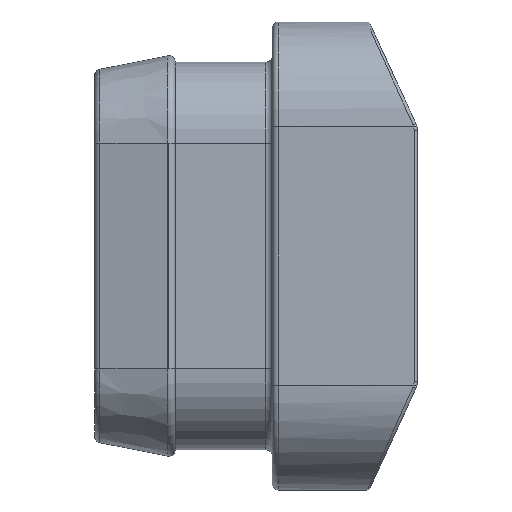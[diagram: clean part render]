
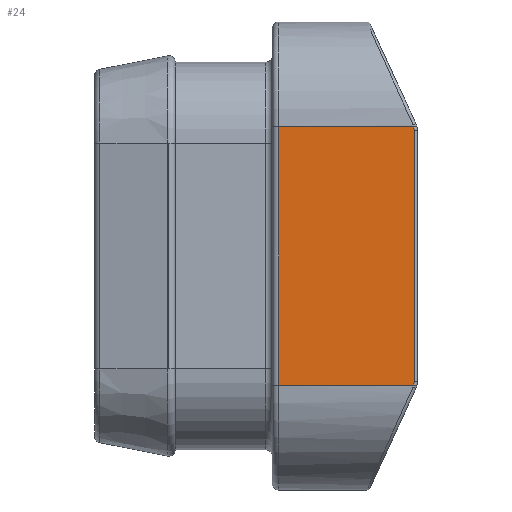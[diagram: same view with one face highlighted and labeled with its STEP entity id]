
A CAD part, left-side view. The second image highlights one B-rep face of the part: STEP entity #24.
In plain terms, the highlighted planar face has unit normal (-1, 0, 0).
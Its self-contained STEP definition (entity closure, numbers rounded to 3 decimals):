
#24 = ADVANCED_FACE ( 'NONE', ( #3559 ), #2987, .F. ) ;
#279 = CARTESIAN_POINT ( 'NONE',  ( -3.25, -9.5, 0.39 ) ) ;
#308 = DIRECTION ( 'NONE',  ( 0., 1., 0. ) ) ;
#326 = LINE ( 'NONE', #1895, #652 ) ;
#376 = LINE ( 'NONE', #3092, #3268 ) ;
#455 = DIRECTION ( 'NONE',  ( 0., 1., 0. ) ) ;
#493 = AXIS2_PLACEMENT_3D ( 'NONE', #279, #2980, #3293 ) ;
#609 = CARTESIAN_POINT ( 'NONE',  ( -3.25, -10., 0.5 ) ) ;
#652 = VECTOR ( 'NONE', #455, 1000. ) ;
#654 = DIRECTION ( 'NONE',  ( 0., 0., -1. ) ) ;
#658 = ORIENTED_EDGE ( 'NONE', *, *, #2526, .T. ) ;
#672 = AXIS2_PLACEMENT_3D ( 'NONE', #2436, #3030, #654 ) ;
#890 = AXIS2_PLACEMENT_3D ( 'NONE', #609, #2783, #3112 ) ;
#957 = CARTESIAN_POINT ( 'NONE',  ( -3.25, -5.7, 0.5 ) ) ;
#1059 = CARTESIAN_POINT ( 'NONE',  ( -3.25, -5.7, 0.5 ) ) ;
#1121 = ORIENTED_EDGE ( 'NONE', *, *, #1804, .T. ) ;
#1212 = VERTEX_POINT ( 'NONE', #1059 ) ;
#1247 = ORIENTED_EDGE ( 'NONE', *, *, #2264, .T. ) ;
#1256 = DIRECTION ( 'NONE',  ( 0., 0., -1. ) ) ;
#1306 = CIRCLE ( 'NONE', #493, 0.4 ) ;
#1616 = EDGE_CURVE ( 'NONE', #2239, #3636, #1913, .T. ) ;
#1630 = CARTESIAN_POINT ( 'NONE',  ( -3.25, -9.9, -7.39 ) ) ;
#1792 = EDGE_CURVE ( 'NONE', #1972, #1212, #326, .T. ) ;
#1804 = EDGE_CURVE ( 'NONE', #3636, #3056, #376, .T. ) ;
#1895 = CARTESIAN_POINT ( 'NONE',  ( -3.25, -10., 0.5 ) ) ;
#1913 = CIRCLE ( 'NONE', #672, 0.4 ) ;
#1972 = VERTEX_POINT ( 'NONE', #3805 ) ;
#2029 = EDGE_CURVE ( 'NONE', #2239, #3718, #3551, .T. ) ;
#2137 = VECTOR ( 'NONE', #1256, 1000. ) ;
#2220 = ORIENTED_EDGE ( 'NONE', *, *, #2029, .F. ) ;
#2239 = VERTEX_POINT ( 'NONE', #2726 ) ;
#2264 = EDGE_CURVE ( 'NONE', #1212, #3718, #3598, .T. ) ;
#2316 = EDGE_LOOP ( 'NONE', ( #2984, #1247, #2220, #3050, #1121, #658 ) ) ;
#2396 = CARTESIAN_POINT ( 'NONE',  ( -3.25, -9.9, 0.39 ) ) ;
#2436 = CARTESIAN_POINT ( 'NONE',  ( -3.25, -9.5, -7.39 ) ) ;
#2526 = EDGE_CURVE ( 'NONE', #3056, #1972, #1306, .T. ) ;
#2726 = CARTESIAN_POINT ( 'NONE',  ( -3.25, -9.885, -7.5 ) ) ;
#2783 = DIRECTION ( 'NONE',  ( 1., 0., 0. ) ) ;
#2980 = DIRECTION ( 'NONE',  ( -1., 0., 0. ) ) ;
#2984 = ORIENTED_EDGE ( 'NONE', *, *, #1792, .T. ) ;
#2987 = PLANE ( 'NONE',  #890 ) ;
#3030 = DIRECTION ( 'NONE',  ( -1., 0., 0. ) ) ;
#3050 = ORIENTED_EDGE ( 'NONE', *, *, #1616, .T. ) ;
#3056 = VERTEX_POINT ( 'NONE', #2396 ) ;
#3092 = CARTESIAN_POINT ( 'NONE',  ( -3.25, -9.9, 0.39 ) ) ;
#3112 = DIRECTION ( 'NONE',  ( 0., 0., -1. ) ) ;
#3260 = CARTESIAN_POINT ( 'NONE',  ( -3.25, -10., -7.5 ) ) ;
#3268 = VECTOR ( 'NONE', #3478, 1000. ) ;
#3293 = DIRECTION ( 'NONE',  ( 0., 0., -1. ) ) ;
#3319 = VECTOR ( 'NONE', #308, 1000. ) ;
#3478 = DIRECTION ( 'NONE',  ( 0., 0., 1. ) ) ;
#3551 = LINE ( 'NONE', #3260, #3319 ) ;
#3559 = FACE_OUTER_BOUND ( 'NONE', #2316, .T. ) ;
#3598 = LINE ( 'NONE', #957, #2137 ) ;
#3636 = VERTEX_POINT ( 'NONE', #1630 ) ;
#3718 = VERTEX_POINT ( 'NONE', #3775 ) ;
#3775 = CARTESIAN_POINT ( 'NONE',  ( -3.25, -5.7, -7.5 ) ) ;
#3805 = CARTESIAN_POINT ( 'NONE',  ( -3.25, -9.885, 0.5 ) ) ;
